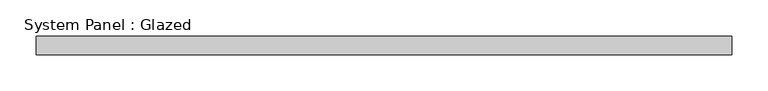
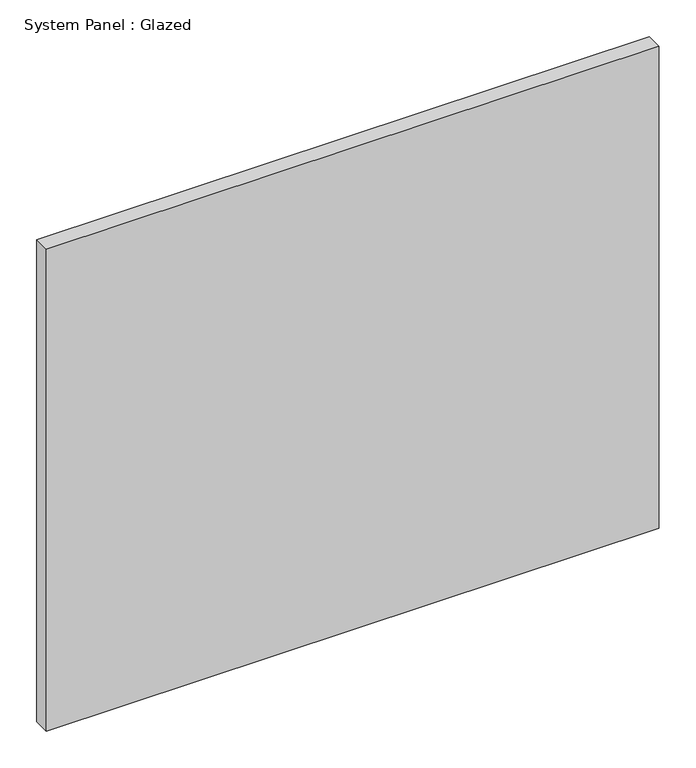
"""IFC4 building model written with IfcOpenShell, lengths in millimetres: plate geometry, System Panel : Glazed."""

from ifc_helpers import new_model, si_unit, origin, origin_with_axes, place, context, project, spatial, polyline, outline, extrude, source, transform, mapped, element, save


def system_panel_glazed_d97c3899(model_context):
    return source(origin(), model_context, "Body", "SweptSolid", [
        extrude(outline(polyline([(480.2846853, 19.05), (-480.2846853, 19.05), (-480.2846853, 44.45), (480.2846853, 44.45), (480.2846853, 19.05)])), origin_with_axes(), (0.0, 0.0, 1.0), 798.5967633),
    ])


if __name__ == "__main__":
    model = new_model("IFC4")
    model_context = context("Model", 3, world=origin())
    ifc_project = project(units=[si_unit("LENGTHUNIT", "METRE", prefix="MILLI")], contexts=[model_context])
    site = spatial("IfcSite", under=ifc_project)
    building = spatial("IfcBuilding", under=site)
    placement = place(None, origin())
    system_panel_glazed_shape = system_panel_glazed_d97c3899(model_context)
    element("IfcPlate", 1, ObjectType="System Panel : Glazed", at=placement, inside=building, context=model_context, shape_type="MappedRepresentation", body=[
        mapped(system_panel_glazed_shape, transform((0.0, 0.0, 0.0), x_axis=(1.0, 0.0, 0.0), y_axis=(0.0, 1.0, 0.0), z_axis=(0.0, 0.0, 1.0))),
    ])
    save(model, "model.ifc")
